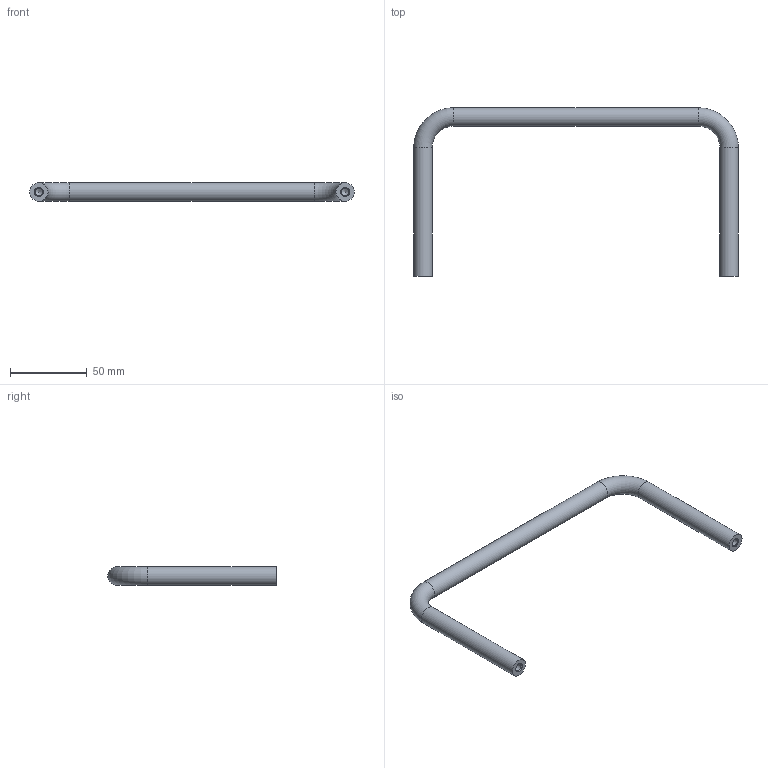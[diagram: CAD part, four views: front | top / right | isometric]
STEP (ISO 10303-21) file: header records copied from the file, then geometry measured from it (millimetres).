
FILE_DESCRIPTION(/* description */ ('STEP AP214'),/* implementation_level */ '2;1');
FILE_NAME(/* name */ 'Cabinet U-Handle_ Stainless Steel GN 435-NI-12-200-110-GS',/* time_stamp */ '2023-12-15T08:45:11+01:00',/* author */ ('License CC BY-ND 4.0'),/* organization */ ('CADENAS'),/* preprocessor_version */ 'ST-DEVELOPER v19.3',/* originating_system */ 'PARTsolutions',/* authorisation */ ' ');
FILE_SCHEMA (('AUTOMOTIVE_DESIGN {1 0 10303 214 3 1 1}'));
Length unit declared in the file: millimetre
Products named in the file (1): Cabinet U-Handle, Stainless Steel GN 435-NI-12-200-110-GS
Bounding box: 212 x 110 x 12 mm (x, y, z)
Volume: 43570.8 mm3; surface area: 15451.8 mm2
Topology: 1 solids, 1 shells, 13 faces, 30 edges, 19 vertices
Faces by surface type: cylinder 5, cone 4, plane 2, torus 2
Full cylindrical faces by diameter (mm): 4.917 x2, 12 x3
Entity records: 292 total; most frequent: DIRECTION 52, CARTESIAN_POINT 40, FACE_BOUND 26, AXIS2_PLACEMENT_3D 26, ORIENTED_EDGE 24, EDGE_LOOP 24, VERTEX_POINT 14, ADVANCED_FACE 13
